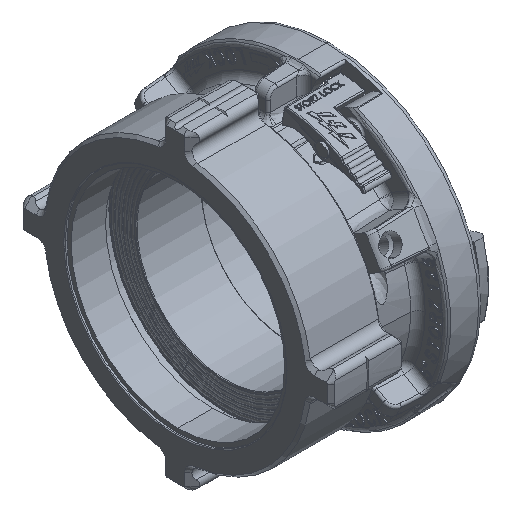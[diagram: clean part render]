
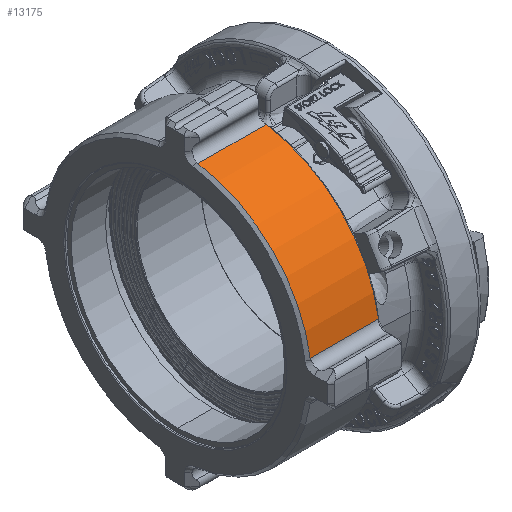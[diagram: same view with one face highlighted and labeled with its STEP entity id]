
A CAD part, isometric view. The second image highlights one B-rep face of the part: STEP entity #13175.
In plain terms, the highlighted cylindrical face has radius 85.725 mm (diameter 171.45 mm), a partial arc.
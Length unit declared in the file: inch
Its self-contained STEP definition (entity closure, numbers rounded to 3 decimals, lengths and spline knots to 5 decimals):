
#24 = LINE ( 'NONE', #4752, #30 ) ;
#26 = LINE ( 'NONE', #4818, #32 ) ;
#28 = CIRCLE ( 'NONE', #38537, 3.375 ) ;
#29 = CIRCLE ( 'NONE', #38539, 3.375 ) ;
#30 = VECTOR ( 'NONE', #4757, 39.37008 ) ;
#32 = VECTOR ( 'NONE', #4794, 39.37008 ) ;
#4752 = CARTESIAN_POINT ( 'NONE',  ( -1.701, -3.33777, 0.4999 ) ) ;
#4757 = DIRECTION ( 'NONE',  ( -1., 0., 0. ) ) ;
#4794 = DIRECTION ( 'NONE',  ( -1., 0., 0. ) ) ;
#4801 = CARTESIAN_POINT ( 'NONE',  ( -3.5448, 0., 0. ) ) ;
#4802 = DIRECTION ( 'NONE',  ( -1., 0., 0. ) ) ;
#4805 = DIRECTION ( 'NONE',  ( 0., 0., -1. ) ) ;
#4818 = CARTESIAN_POINT ( 'NONE',  ( -1.701, -0.4999, 3.33777 ) ) ;
#4819 = CARTESIAN_POINT ( 'NONE',  ( -1.8202, 0., 0. ) ) ;
#4822 = DIRECTION ( 'NONE',  ( -1., 0., 0. ) ) ;
#4825 = DIRECTION ( 'NONE',  ( 0., 0., 1. ) ) ;
#13175 = ADVANCED_FACE ( 'NONE', ( #49592 ), #49602, .T. ) ;
#30462 = DIRECTION ( 'NONE',  ( 0., 0., 1. ) ) ;
#30467 = DIRECTION ( 'NONE',  ( -1., 0., 0. ) ) ;
#30469 = CARTESIAN_POINT ( 'NONE',  ( -1.701, 0., 0. ) ) ;
#37584 = ORIENTED_EDGE ( 'NONE', *, *, #42941, .F. ) ;
#37585 = ORIENTED_EDGE ( 'NONE', *, *, #42942, .F. ) ;
#37586 = ORIENTED_EDGE ( 'NONE', *, *, #42943, .T. ) ;
#37587 = ORIENTED_EDGE ( 'NONE', *, *, #42944, .T. ) ;
#38426 = AXIS2_PLACEMENT_3D ( 'NONE', #30469, #30467, #30462 ) ;
#38537 = AXIS2_PLACEMENT_3D ( 'NONE', #4801, #4802, #4805 ) ;
#38539 = AXIS2_PLACEMENT_3D ( 'NONE', #4819, #4822, #4825 ) ;
#42214 = VERTEX_POINT ( 'NONE', #45620 ) ;
#42218 = VERTEX_POINT ( 'NONE', #45624 ) ;
#42219 = VERTEX_POINT ( 'NONE', #45625 ) ;
#42224 = VERTEX_POINT ( 'NONE', #45630 ) ;
#42941 = EDGE_CURVE ( 'NONE', #42224, #42219, #28, .T. ) ;
#42942 = EDGE_CURVE ( 'NONE', #42218, #42224, #24, .T. ) ;
#42943 = EDGE_CURVE ( 'NONE', #42218, #42214, #29, .T. ) ;
#42944 = EDGE_CURVE ( 'NONE', #42214, #42219, #26, .T. ) ;
#45620 = CARTESIAN_POINT ( 'NONE',  ( -1.8202, -0.4999, 3.33777 ) ) ;
#45624 = CARTESIAN_POINT ( 'NONE',  ( -1.8202, -3.33777, 0.4999 ) ) ;
#45625 = CARTESIAN_POINT ( 'NONE',  ( -3.5448, -0.4999, 3.33777 ) ) ;
#45630 = CARTESIAN_POINT ( 'NONE',  ( -3.5448, -3.33777, 0.4999 ) ) ;
#46426 = EDGE_LOOP ( 'NONE', ( #37584, #37585, #37586, #37587 ) ) ;
#49592 = FACE_OUTER_BOUND ( 'NONE', #46426, .T. ) ;
#49602 = CYLINDRICAL_SURFACE ( 'NONE', #38426, 3.375 ) ;
